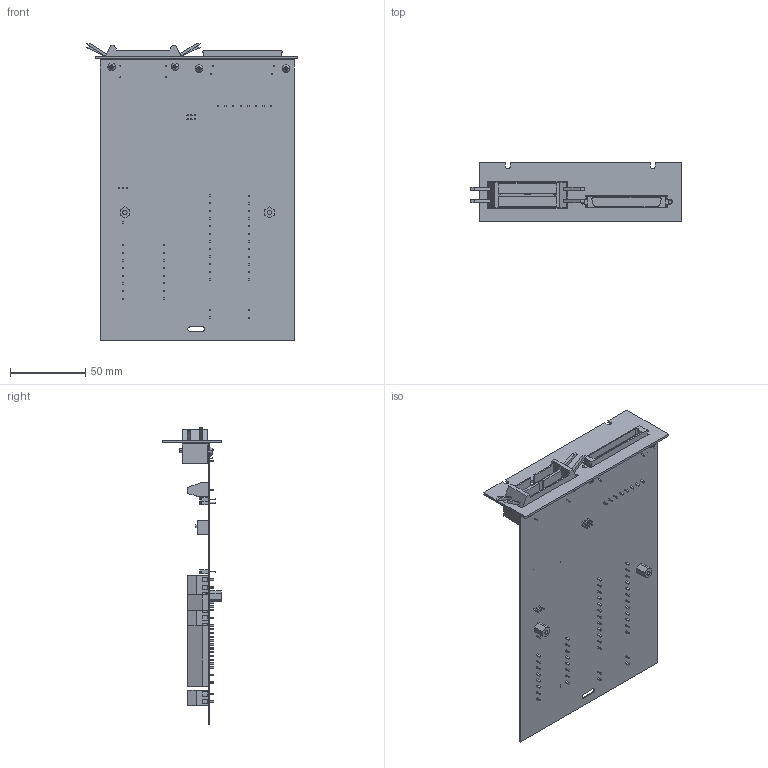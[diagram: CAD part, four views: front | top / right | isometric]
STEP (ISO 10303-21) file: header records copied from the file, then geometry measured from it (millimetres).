
FILE_DESCRIPTION((''),'2;1');
FILE_NAME('CD-CB-68T','2008-01-14T',('scarrasc'),(''),'PRO/ENGINEER BY PARAMETRIC TECHNOLOGY CORPORATION, 2006080','PRO/ENGINEER BY PARAMETRIC TECHNOLOGY CORPORATION, 2006080','');
FILE_SCHEMA(('CONFIG_CONTROL_DESIGN'));
Length unit declared in the file: inch
Products named in the file (1): CD-CB-68T
Bounding box: 140.66 x 39.37 x 197.97 mm (x, y, z)
Volume: 73595.5 mm3; surface area: 78904.7 mm2
Topology: 1 solids, 1 shells, 1409 faces, 3345 edges, 2133 vertices
Faces by surface type: plane 1126, cylinder 194, bspline 49, sphere 20, cone 16, torus 4
Entity records: 41511 total; most frequent: CARTESIAN_POINT 8849, ORIENTED_EDGE 6618, DIRECTION 6460, EDGE_CURVE 3309, VECTOR 2668, LINE 2668, VERTEX_POINT 2228, AXIS2_PLACEMENT_3D 1896
